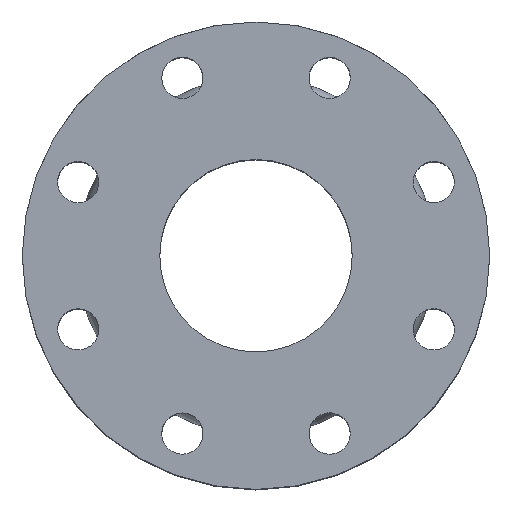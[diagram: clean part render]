
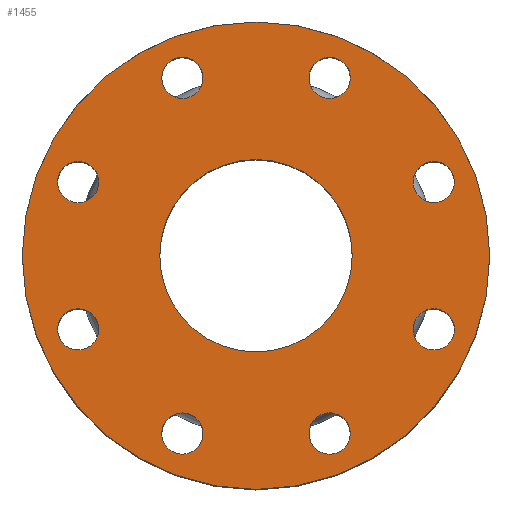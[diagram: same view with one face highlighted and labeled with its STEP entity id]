
A CAD part, top view. The second image highlights one B-rep face of the part: STEP entity #1455.
In plain terms, the highlighted planar face has unit normal (0, 0, 1).
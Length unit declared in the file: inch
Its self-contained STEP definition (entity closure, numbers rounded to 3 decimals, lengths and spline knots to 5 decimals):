
#40=FACE_BOUND('',#257,.T.);
#41=FACE_BOUND('',#258,.T.);
#42=FACE_BOUND('',#259,.T.);
#43=FACE_BOUND('',#260,.T.);
#44=FACE_BOUND('',#261,.T.);
#45=FACE_BOUND('',#262,.T.);
#46=FACE_BOUND('',#263,.T.);
#47=FACE_BOUND('',#264,.T.);
#48=FACE_BOUND('',#265,.T.);
#96=PLANE('',#1625);
#156=FACE_OUTER_BOUND('',#256,.T.);
#256=EDGE_LOOP('',(#1076));
#257=EDGE_LOOP('',(#1077));
#258=EDGE_LOOP('',(#1078));
#259=EDGE_LOOP('',(#1079));
#260=EDGE_LOOP('',(#1080));
#261=EDGE_LOOP('',(#1081));
#262=EDGE_LOOP('',(#1082));
#263=EDGE_LOOP('',(#1083));
#264=EDGE_LOOP('',(#1084));
#265=EDGE_LOOP('',(#1085));
#540=CIRCLE('',#1598,0.375);
#542=CIRCLE('',#1601,0.375);
#544=CIRCLE('',#1604,0.375);
#546=CIRCLE('',#1607,0.375);
#548=CIRCLE('',#1610,0.375);
#550=CIRCLE('',#1613,0.375);
#552=CIRCLE('',#1616,0.375);
#554=CIRCLE('',#1619,0.375);
#555=CIRCLE('',#1621,1.75);
#557=CIRCLE('',#1624,4.25);
#648=VERTEX_POINT('',#2305);
#650=VERTEX_POINT('',#2311);
#652=VERTEX_POINT('',#2317);
#654=VERTEX_POINT('',#2323);
#656=VERTEX_POINT('',#2329);
#658=VERTEX_POINT('',#2335);
#660=VERTEX_POINT('',#2341);
#662=VERTEX_POINT('',#2347);
#663=VERTEX_POINT('',#2351);
#665=VERTEX_POINT('',#2357);
#793=EDGE_CURVE('',#648,#648,#540,.T.);
#796=EDGE_CURVE('',#650,#650,#542,.T.);
#799=EDGE_CURVE('',#652,#652,#544,.T.);
#802=EDGE_CURVE('',#654,#654,#546,.T.);
#805=EDGE_CURVE('',#656,#656,#548,.T.);
#808=EDGE_CURVE('',#658,#658,#550,.T.);
#811=EDGE_CURVE('',#660,#660,#552,.T.);
#814=EDGE_CURVE('',#662,#662,#554,.T.);
#815=EDGE_CURVE('',#663,#663,#555,.T.);
#819=EDGE_CURVE('',#665,#665,#557,.T.);
#1076=ORIENTED_EDGE('',*,*,#819,.F.);
#1077=ORIENTED_EDGE('',*,*,#793,.T.);
#1078=ORIENTED_EDGE('',*,*,#796,.T.);
#1079=ORIENTED_EDGE('',*,*,#799,.T.);
#1080=ORIENTED_EDGE('',*,*,#802,.T.);
#1081=ORIENTED_EDGE('',*,*,#805,.T.);
#1082=ORIENTED_EDGE('',*,*,#808,.T.);
#1083=ORIENTED_EDGE('',*,*,#811,.T.);
#1084=ORIENTED_EDGE('',*,*,#814,.T.);
#1085=ORIENTED_EDGE('',*,*,#815,.T.);
#1455=ADVANCED_FACE('',(#156,#40,#41,#42,#43,#44,#45,#46,#47,#48),#96,.F.);
#1598=AXIS2_PLACEMENT_3D('',#2307,#1882,#1883);
#1601=AXIS2_PLACEMENT_3D('',#2313,#1889,#1890);
#1604=AXIS2_PLACEMENT_3D('',#2319,#1896,#1897);
#1607=AXIS2_PLACEMENT_3D('',#2325,#1903,#1904);
#1610=AXIS2_PLACEMENT_3D('',#2331,#1910,#1911);
#1613=AXIS2_PLACEMENT_3D('',#2337,#1917,#1918);
#1616=AXIS2_PLACEMENT_3D('',#2343,#1924,#1925);
#1619=AXIS2_PLACEMENT_3D('',#2349,#1931,#1932);
#1621=AXIS2_PLACEMENT_3D('',#2352,#1935,#1936);
#1624=AXIS2_PLACEMENT_3D('',#2359,#1943,#1944);
#1625=AXIS2_PLACEMENT_3D('',#2360,#1945,#1946);
#1882=DIRECTION('center_axis',(0.,0.,
-1.));
#1883=DIRECTION('ref_axis',(0.,-1.,0.));
#1889=DIRECTION('center_axis',(0.,0.,
-1.));
#1890=DIRECTION('ref_axis',(-0.707,-0.707,0.));
#1896=DIRECTION('center_axis',(0.,0.,
-1.));
#1897=DIRECTION('ref_axis',(-1.,0.,0.));
#1903=DIRECTION('center_axis',(0.,0.,
-1.));
#1904=DIRECTION('ref_axis',(-0.707,0.707,0.));
#1910=DIRECTION('center_axis',(0.,0.,
-1.));
#1911=DIRECTION('ref_axis',(0.,1.,0.));
#1917=DIRECTION('center_axis',(0.,0.,
-1.));
#1918=DIRECTION('ref_axis',(0.707,0.707,0.));
#1924=DIRECTION('center_axis',(0.,0.,
-1.));
#1925=DIRECTION('ref_axis',(0.707,-0.707,0.));
#1931=DIRECTION('center_axis',(0.,0.,
-1.));
#1932=DIRECTION('ref_axis',(1.,0.,0.));
#1935=DIRECTION('center_axis',(0.,0.,
-1.));
#1936=DIRECTION('ref_axis',(-1.,0.,0.));
#1943=DIRECTION('center_axis',(0.,0.,
-1.));
#1944=DIRECTION('ref_axis',(1.,0.,0.));
#1945=DIRECTION('center_axis',(0.,0.,
-1.));
#1946=DIRECTION('ref_axis',(1.,0.,0.));
#2305=CARTESIAN_POINT('',(-3.23358,1.71439,3.));
#2307=CARTESIAN_POINT('Origin',(-3.23358,1.33939,3.));
#2311=CARTESIAN_POINT('',(-1.07423,3.49874,3.));
#2313=CARTESIAN_POINT('Origin',(-1.33939,3.23358,3.));
#2317=CARTESIAN_POINT('',(1.71439,3.23358,3.));
#2319=CARTESIAN_POINT('Origin',(1.33939,3.23358,3.));
#2323=CARTESIAN_POINT('',(3.49874,1.07423,3.));
#2325=CARTESIAN_POINT('Origin',(3.23358,1.33939,3.));
#2329=CARTESIAN_POINT('',(3.23358,-1.71439,3.));
#2331=CARTESIAN_POINT('Origin',(3.23358,-1.33939,3.));
#2335=CARTESIAN_POINT('',(1.07423,-3.49874,3.));
#2337=CARTESIAN_POINT('Origin',(1.33939,-3.23358,3.));
#2341=CARTESIAN_POINT('',(-3.49874,-1.07423,3.));
#2343=CARTESIAN_POINT('Origin',(-3.23358,-1.33939,3.));
#2347=CARTESIAN_POINT('',(-1.71439,-3.23358,3.));
#2349=CARTESIAN_POINT('Origin',(-1.33939,-3.23358,3.));
#2351=CARTESIAN_POINT('',(1.75,0.,3.));
#2352=CARTESIAN_POINT('Origin',(0.,0.,
3.));
#2357=CARTESIAN_POINT('',(-4.25,0.,3.));
#2359=CARTESIAN_POINT('Origin',(0.,0.,
3.));
#2360=CARTESIAN_POINT('Origin',(0.,0.,
3.));
